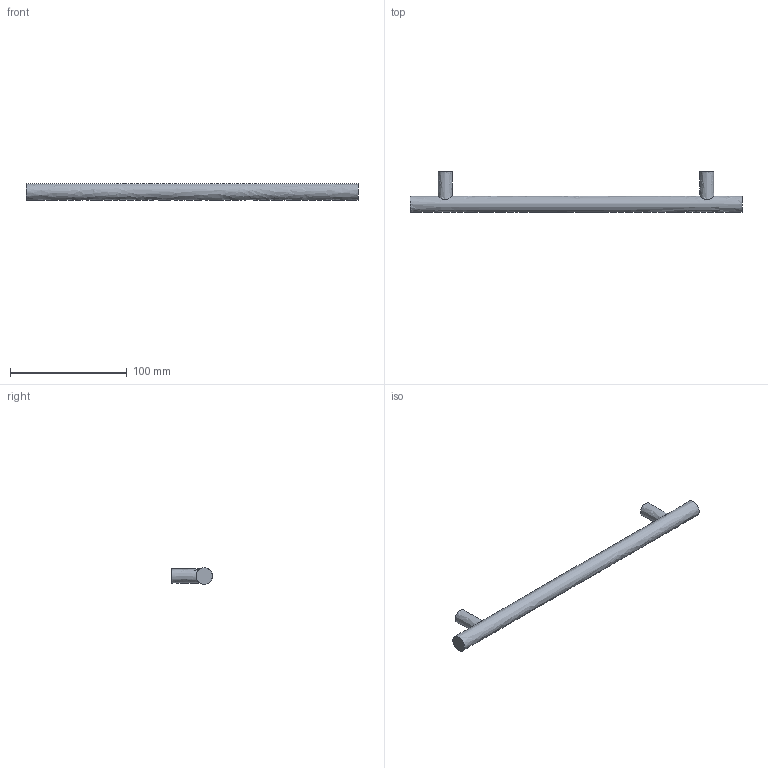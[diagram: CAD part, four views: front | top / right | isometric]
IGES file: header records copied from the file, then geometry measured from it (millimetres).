
Start section: Data from Parasolid IGES Translator 15.0.47, Copyright(c) 2006 Siemens P LM Software. All Rights Reserved.
Global section: file name: 9071051.igs; native system:  By UGS Corp.; preprocessor: XPlus GENERIC/IGES 3.0; author: Noname; organization: Noname; date: 20140122.181412; units: millimetre
Bounding box: 284 x 35 x 14 mm (x, y, z)
Surface area: 14770.7 mm2 (no closed solid volume)
Topology: 0 solids, 0 shells, 11 faces, 30 edges, 22 vertices
Faces by surface type: extrusion 6, revolution 5
